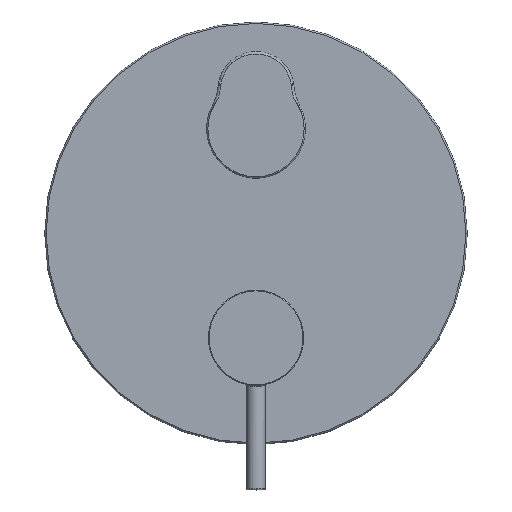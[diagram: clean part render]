
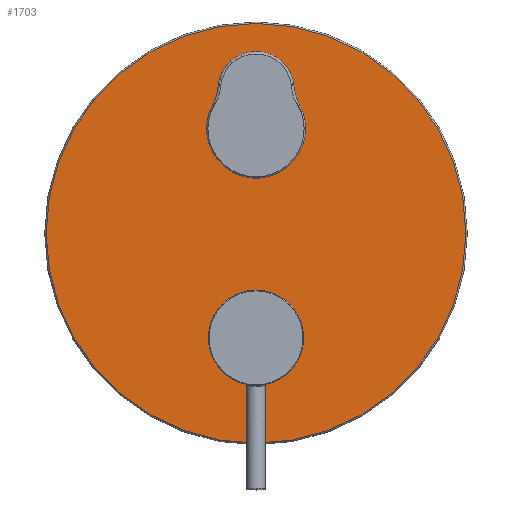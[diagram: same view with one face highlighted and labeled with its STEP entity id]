
A CAD part, top view. The second image highlights one B-rep face of the part: STEP entity #1703.
In plain terms, the highlighted planar face has unit normal (0, 0, 1).
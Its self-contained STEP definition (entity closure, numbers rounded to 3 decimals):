
#134 = ORIENTED_EDGE ( 'NONE', *, *, #2837, .F. ) ;
#150 = AXIS2_PLACEMENT_3D ( 'NONE', #2921, #1130, #2156 ) ;
#152 = ORIENTED_EDGE ( 'NONE', *, *, #2244, .F. ) ;
#270 = VERTEX_POINT ( 'NONE', #1486 ) ;
#354 = DIRECTION ( 'NONE',  ( -1., 0., 0. ) ) ;
#370 = CARTESIAN_POINT ( 'NONE',  ( -19.75, -44., 8. ) ) ;
#392 = CARTESIAN_POINT ( 'NONE',  ( 0., 44., 8. ) ) ;
#397 = CARTESIAN_POINT ( 'NONE',  ( 0., -44., 8. ) ) ;
#422 = DIRECTION ( 'NONE',  ( -1., 0., 0. ) ) ;
#440 = EDGE_CURVE ( 'NONE', #2557, #1289, #2979, .T. ) ;
#452 = DIRECTION ( 'NONE',  ( -1., 0., 0. ) ) ;
#475 = ORIENTED_EDGE ( 'NONE', *, *, #1076, .F. ) ;
#515 = CARTESIAN_POINT ( 'NONE',  ( 88.3, 0., 8. ) ) ;
#567 = DIRECTION ( 'NONE',  ( 0., 0., 1. ) ) ;
#602 = ORIENTED_EDGE ( 'NONE', *, *, #440, .T. ) ;
#616 = EDGE_CURVE ( 'NONE', #1832, #1885, #849, .T. ) ;
#694 = LINE ( 'NONE', #1702, #3146 ) ;
#696 = DIRECTION ( 'NONE',  ( 0., 0., -1. ) ) ;
#725 = CARTESIAN_POINT ( 'NONE',  ( 20., -44., 8. ) ) ;
#737 = FACE_OUTER_BOUND ( 'NONE', #1582, .T. ) ;
#774 = DIRECTION ( 'NONE',  ( 1., 0., 0. ) ) ;
#844 = CARTESIAN_POINT ( 'NONE',  ( 0., 0., 8. ) ) ;
#849 = CIRCLE ( 'NONE', #2082, 88.3 ) ;
#870 = VERTEX_POINT ( 'NONE', #2509 ) ;
#928 = CARTESIAN_POINT ( 'NONE',  ( -88.3, 0., 8. ) ) ;
#932 = EDGE_LOOP ( 'NONE', ( #602, #1301 ) ) ;
#1019 = FACE_BOUND ( 'NONE', #3105, .T. ) ;
#1076 = EDGE_CURVE ( 'NONE', #2388, #870, #694, .T. ) ;
#1116 = LINE ( 'NONE', #3197, #1205 ) ;
#1130 = DIRECTION ( 'NONE',  ( 0., 0., -1. ) ) ;
#1205 = VECTOR ( 'NONE', #354, 1000. ) ;
#1289 = VERTEX_POINT ( 'NONE', #2009 ) ;
#1301 = ORIENTED_EDGE ( 'NONE', *, *, #3284, .T. ) ;
#1334 = CARTESIAN_POINT ( 'NONE',  ( -20.8, 44., 8. ) ) ;
#1340 = DIRECTION ( 'NONE',  ( 1., 0., 0. ) ) ;
#1403 = CARTESIAN_POINT ( 'NONE',  ( 0., -44., 8. ) ) ;
#1486 = CARTESIAN_POINT ( 'NONE',  ( 19.75, -44., 8. ) ) ;
#1582 = EDGE_LOOP ( 'NONE', ( #2218, #152 ) ) ;
#1702 = CARTESIAN_POINT ( 'NONE',  ( 0., -44., 8. ) ) ;
#1703 = ADVANCED_FACE ( 'NONE', ( #3017, #737, #1019 ), #3032, .T. ) ;
#1705 = ORIENTED_EDGE ( 'NONE', *, *, #2332, .F. ) ;
#1776 = AXIS2_PLACEMENT_3D ( 'NONE', #2580, #567, #1821 ) ;
#1821 = DIRECTION ( 'NONE',  ( 1., 0., 0. ) ) ;
#1832 = VERTEX_POINT ( 'NONE', #928 ) ;
#1856 = AXIS2_PLACEMENT_3D ( 'NONE', #1403, #2176, #2638 ) ;
#1857 = DIRECTION ( 'NONE',  ( 0., 0., -1. ) ) ;
#1866 = ORIENTED_EDGE ( 'NONE', *, *, #2815, .F. ) ;
#1872 = CARTESIAN_POINT ( 'NONE',  ( 0., 44., 8. ) ) ;
#1885 = VERTEX_POINT ( 'NONE', #515 ) ;
#1906 = DIRECTION ( 'NONE',  ( 0., 0., 1. ) ) ;
#1944 = CIRCLE ( 'NONE', #2378, 20.8 ) ;
#2009 = CARTESIAN_POINT ( 'NONE',  ( 20.8, 44., 8. ) ) ;
#2082 = AXIS2_PLACEMENT_3D ( 'NONE', #844, #1857, #774 ) ;
#2131 = AXIS2_PLACEMENT_3D ( 'NONE', #1872, #2895, #2673 ) ;
#2156 = DIRECTION ( 'NONE',  ( 1., 0., 0. ) ) ;
#2176 = DIRECTION ( 'NONE',  ( 0., 0., 1. ) ) ;
#2218 = ORIENTED_EDGE ( 'NONE', *, *, #616, .F. ) ;
#2231 = CIRCLE ( 'NONE', #1856, 20. ) ;
#2244 = EDGE_CURVE ( 'NONE', #1885, #1832, #2955, .T. ) ;
#2318 = CIRCLE ( 'NONE', #2374, 19.75 ) ;
#2332 = EDGE_CURVE ( 'NONE', #270, #2388, #2318, .T. ) ;
#2374 = AXIS2_PLACEMENT_3D ( 'NONE', #397, #1906, #1340 ) ;
#2378 = AXIS2_PLACEMENT_3D ( 'NONE', #392, #696, #422 ) ;
#2388 = VERTEX_POINT ( 'NONE', #370 ) ;
#2468 = VERTEX_POINT ( 'NONE', #725 ) ;
#2509 = CARTESIAN_POINT ( 'NONE',  ( -20., -44., 8. ) ) ;
#2557 = VERTEX_POINT ( 'NONE', #1334 ) ;
#2580 = CARTESIAN_POINT ( 'NONE',  ( 0., 0., 8. ) ) ;
#2638 = DIRECTION ( 'NONE',  ( 1., 0., 0. ) ) ;
#2673 = DIRECTION ( 'NONE',  ( -1., 0., 0. ) ) ;
#2815 = EDGE_CURVE ( 'NONE', #870, #2468, #2231, .T. ) ;
#2837 = EDGE_CURVE ( 'NONE', #2468, #270, #1116, .T. ) ;
#2895 = DIRECTION ( 'NONE',  ( 0., 0., -1. ) ) ;
#2921 = CARTESIAN_POINT ( 'NONE',  ( 0., 0., 8. ) ) ;
#2955 = CIRCLE ( 'NONE', #150, 88.3 ) ;
#2979 = CIRCLE ( 'NONE', #2131, 20.8 ) ;
#3017 = FACE_BOUND ( 'NONE', #932, .T. ) ;
#3032 = PLANE ( 'NONE',  #1776 ) ;
#3105 = EDGE_LOOP ( 'NONE', ( #475, #1705, #134, #1866 ) ) ;
#3146 = VECTOR ( 'NONE', #452, 1000. ) ;
#3197 = CARTESIAN_POINT ( 'NONE',  ( 0., -44., 8. ) ) ;
#3284 = EDGE_CURVE ( 'NONE', #1289, #2557, #1944, .T. ) ;
